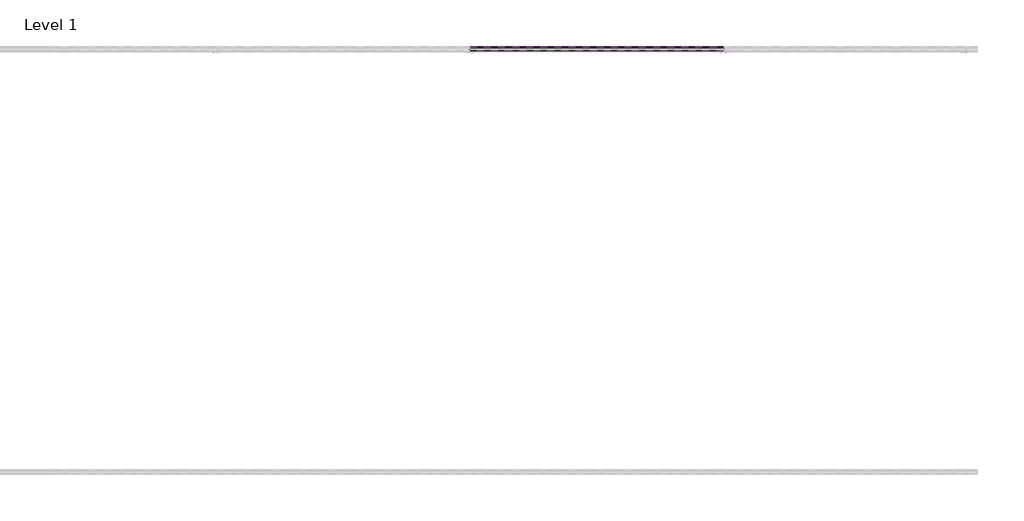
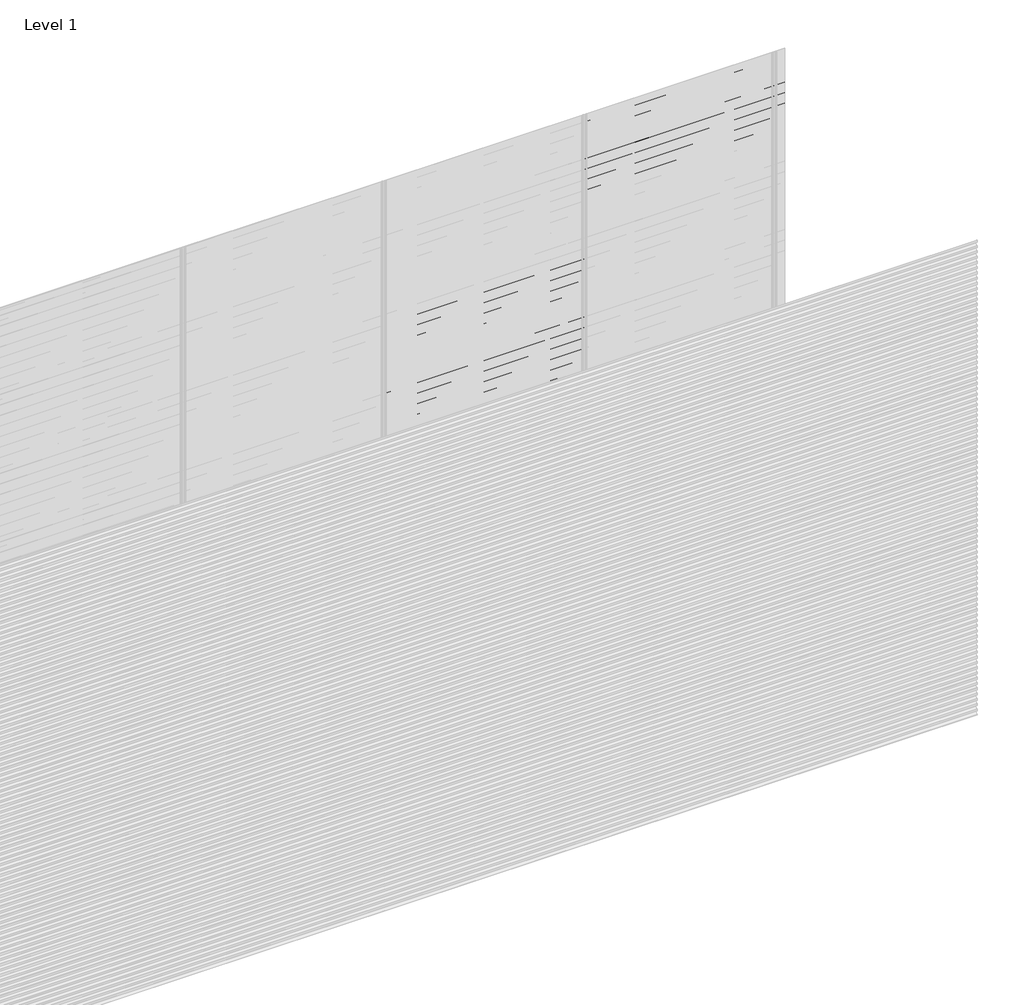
# One storey, part 76 of 77: 78 proxies.
"""IFC4 building model written with IfcOpenShell, lengths in millimetres."""

from ifc_helpers import new_model, si_unit, frame, origin, place, context, project, spatial, polyline, outline, extrude, element, save

model = new_model("IFC4")

# Units and contexts
model_context = context("Model", 3, world=origin())
ifc_project = project(units=[si_unit("LENGTHUNIT", "METRE", prefix="MILLI")], contexts=[model_context])

# Site, building, storey
site = spatial("IfcSite", under=ifc_project)
building = spatial("IfcBuilding", under=site)
storey = spatial("IfcBuildingStorey", under=building, Name="Level 1", Elevation=0.0)

# Proxies
placement = place(None, origin())
element("IfcBuildingElementProxy", 1, Name="Wall Sweeps", at=placement, inside=storey, context=model_context, shape_type="SweptSolid", body=[
    extrude(outline(polyline([(21.4, 2073.4359887), (2.0, 2084.6366691), (2.0, 2097.9), (3.0, 2097.9), (3.0, 2085.2191057), (22.4, 2074.0185105), (22.4, 2060.4185105), (21.4, 2061.9953129), (21.4, 2067.8032062), (4.0226183, 2059.7), (3.6, 2060.6063078), (21.4, 2068.9065841), (21.4, 2073.4359887)])), frame((3600.0, 0.0, 0.0), z_axis=(1.0, 0.0, 0.0), x_axis=(0.0, 1.0, 0.0)), (0.0, 0.0, 1.0), 1200.0),
])
element("IfcBuildingElementProxy", 2, Name="Wall Sweeps", at=placement, inside=storey, context=model_context, shape_type="SweptSolid", body=[
    extrude(outline(polyline([(21.4, 2040.1359887), (2.0, 2051.3366691), (2.0, 2064.6), (3.0, 2064.6), (3.0, 2051.9191057), (22.4, 2040.7185105), (22.4, 2027.1185105), (21.4, 2028.6953129), (21.4, 2034.5032062), (4.0226183, 2026.4), (3.6, 2027.3063078), (21.4, 2035.6065841), (21.4, 2040.1359887)])), frame((3600.0, 0.0, 0.0), z_axis=(1.0, 0.0, 0.0), x_axis=(0.0, 1.0, 0.0)), (0.0, 0.0, 1.0), 1200.0),
])
element("IfcBuildingElementProxy", 3, Name="Wall Sweeps", at=placement, inside=storey, context=model_context, shape_type="SweptSolid", body=[
    extrude(outline(polyline([(21.4, 2006.8359887), (2.0, 2018.0366691), (2.0, 2031.3), (3.0, 2031.3), (3.0, 2018.6191057), (22.4, 2007.4185105), (22.4, 1993.8185105), (21.4, 1995.3953129), (21.4, 2001.2032062), (4.0226183, 1993.1), (3.6, 1994.0063078), (21.4, 2002.3065841), (21.4, 2006.8359887)])), frame((3600.0, 0.0, 0.0), z_axis=(1.0, 0.0, 0.0), x_axis=(0.0, 1.0, 0.0)), (0.0, 0.0, 1.0), 1200.0),
])
element("IfcBuildingElementProxy", 4, Name="Wall Sweeps", at=placement, inside=storey, context=model_context, shape_type="SweptSolid", body=[
    extrude(outline(polyline([(21.4, 1973.5359887), (2.0, 1984.7366691), (2.0, 1998.0), (3.0, 1998.0), (3.0, 1985.3191057), (22.4, 1974.1185105), (22.4, 1960.5185105), (21.4, 1962.0953129), (21.4, 1967.9032062), (4.0226183, 1959.8), (3.6, 1960.7063078), (21.4, 1969.0065841), (21.4, 1973.5359887)])), frame((3600.0, 0.0, 0.0), z_axis=(1.0, 0.0, 0.0), x_axis=(0.0, 1.0, 0.0)), (0.0, 0.0, 1.0), 1200.0),
])
element("IfcBuildingElementProxy", 5, Name="Wall Sweeps", at=placement, inside=storey, context=model_context, shape_type="SweptSolid", body=[
    extrude(outline(polyline([(21.4, 1940.2359887), (2.0, 1951.4366691), (2.0, 1964.7), (3.0, 1964.7), (3.0, 1952.0191057), (22.4, 1940.8185105), (22.4, 1927.2185105), (21.4, 1928.7953129), (21.4, 1934.6032062), (4.0226183, 1926.5), (3.6, 1927.4063078), (21.4, 1935.7065841), (21.4, 1940.2359887)])), frame((3600.0, 0.0, 0.0), z_axis=(1.0, 0.0, 0.0), x_axis=(0.0, 1.0, 0.0)), (0.0, 0.0, 1.0), 1200.0),
])
element("IfcBuildingElementProxy", 6, Name="Wall Sweeps", at=placement, inside=storey, context=model_context, shape_type="SweptSolid", body=[
    extrude(outline(polyline([(21.4, 1906.9359887), (2.0, 1918.1366691), (2.0, 1931.4), (3.0, 1931.4), (3.0, 1918.7191057), (22.4, 1907.5185105), (22.4, 1893.9185105), (21.4, 1895.4953129), (21.4, 1901.3032062), (4.0226183, 1893.2), (3.6, 1894.1063078), (21.4, 1902.4065841), (21.4, 1906.9359887)])), frame((3600.0, 0.0, 0.0), z_axis=(1.0, 0.0, 0.0), x_axis=(0.0, 1.0, 0.0)), (0.0, 0.0, 1.0), 1200.0),
])
element("IfcBuildingElementProxy", 7, Name="Wall Sweeps", at=placement, inside=storey, context=model_context, shape_type="SweptSolid", body=[
    extrude(outline(polyline([(21.4, 1873.6359887), (2.0, 1884.8366691), (2.0, 1898.1), (3.0, 1898.1), (3.0, 1885.4191057), (22.4, 1874.2185105), (22.4, 1860.6185105), (21.4, 1862.1953129), (21.4, 1868.0032062), (4.0226183, 1859.9), (3.6, 1860.8063078), (21.4, 1869.1065841), (21.4, 1873.6359887)])), frame((3600.0, 0.0, 0.0), z_axis=(1.0, 0.0, 0.0), x_axis=(0.0, 1.0, 0.0)), (0.0, 0.0, 1.0), 1200.0),
])
element("IfcBuildingElementProxy", 8, Name="Wall Sweeps", at=placement, inside=storey, context=model_context, shape_type="SweptSolid", body=[
    extrude(outline(polyline([(21.4, 1840.3359887), (2.0, 1851.5366691), (2.0, 1864.8), (3.0, 1864.8), (3.0, 1852.1191057), (22.4, 1840.9185105), (22.4, 1827.3185105), (21.4, 1828.8953129), (21.4, 1834.7032062), (4.0226183, 1826.6), (3.6, 1827.5063078), (21.4, 1835.8065841), (21.4, 1840.3359887)])), frame((3600.0, 0.0, 0.0), z_axis=(1.0, 0.0, 0.0), x_axis=(0.0, 1.0, 0.0)), (0.0, 0.0, 1.0), 1200.0),
])
element("IfcBuildingElementProxy", 9, Name="Wall Sweeps", at=placement, inside=storey, context=model_context, shape_type="SweptSolid", body=[
    extrude(outline(polyline([(21.4, 1807.0359887), (2.0, 1818.2366691), (2.0, 1831.5), (3.0, 1831.5), (3.0, 1818.8191057), (22.4, 1807.6185105), (22.4, 1794.0185105), (21.4, 1795.5953129), (21.4, 1801.4032062), (4.0226183, 1793.3), (3.6, 1794.2063078), (21.4, 1802.5065841), (21.4, 1807.0359887)])), frame((3600.0, 0.0, 0.0), z_axis=(1.0, 0.0, 0.0), x_axis=(0.0, 1.0, 0.0)), (0.0, 0.0, 1.0), 1200.0),
])
element("IfcBuildingElementProxy", 10, Name="Wall Sweeps", at=placement, inside=storey, context=model_context, shape_type="SweptSolid", body=[
    extrude(outline(polyline([(21.4, 1773.7359887), (2.0, 1784.9366691), (2.0, 1798.2), (3.0, 1798.2), (3.0, 1785.5191057), (22.4, 1774.3185105), (22.4, 1760.7185105), (21.4, 1762.2953129), (21.4, 1768.1032062), (4.0226183, 1760.0), (3.6, 1760.9063078), (21.4, 1769.2065841), (21.4, 1773.7359887)])), frame((3600.0, 0.0, 0.0), z_axis=(1.0, 0.0, 0.0), x_axis=(0.0, 1.0, 0.0)), (0.0, 0.0, 1.0), 1200.0),
])
element("IfcBuildingElementProxy", 11, Name="Wall Sweeps", at=placement, inside=storey, context=model_context, shape_type="SweptSolid", body=[
    extrude(outline(polyline([(21.4, 1740.4359887), (2.0, 1751.6366691), (2.0, 1764.9), (3.0, 1764.9), (3.0, 1752.2191057), (22.4, 1741.0185105), (22.4, 1727.4185105), (21.4, 1728.9953129), (21.4, 1734.8032062), (4.0226183, 1726.7), (3.6, 1727.6063078), (21.4, 1735.9065841), (21.4, 1740.4359887)])), frame((3600.0, 0.0, 0.0), z_axis=(1.0, 0.0, 0.0), x_axis=(0.0, 1.0, 0.0)), (0.0, 0.0, 1.0), 1200.0),
])
element("IfcBuildingElementProxy", 12, Name="Wall Sweeps", at=placement, inside=storey, context=model_context, shape_type="SweptSolid", body=[
    extrude(outline(polyline([(21.4, 1707.1359887), (2.0, 1718.3366691), (2.0, 1731.6), (3.0, 1731.6), (3.0, 1718.9191057), (22.4, 1707.7185105), (22.4, 1694.1185105), (21.4, 1695.6953129), (21.4, 1701.5032062), (4.0226183, 1693.4), (3.6, 1694.3063078), (21.4, 1702.6065841), (21.4, 1707.1359887)])), frame((3600.0, 0.0, 0.0), z_axis=(1.0, 0.0, 0.0), x_axis=(0.0, 1.0, 0.0)), (0.0, 0.0, 1.0), 1200.0),
])
element("IfcBuildingElementProxy", 13, Name="Wall Sweeps", at=placement, inside=storey, context=model_context, shape_type="SweptSolid", body=[
    extrude(outline(polyline([(21.4, 1673.8359887), (2.0, 1685.0366691), (2.0, 1698.3), (3.0, 1698.3), (3.0, 1685.6191057), (22.4, 1674.4185105), (22.4, 1660.8185105), (21.4, 1662.3953129), (21.4, 1668.2032062), (4.0226183, 1660.1), (3.6, 1661.0063078), (21.4, 1669.3065841), (21.4, 1673.8359887)])), frame((3600.0, 0.0, 0.0), z_axis=(1.0, 0.0, 0.0), x_axis=(0.0, 1.0, 0.0)), (0.0, 0.0, 1.0), 1200.0),
])
element("IfcBuildingElementProxy", 14, Name="Wall Sweeps", at=placement, inside=storey, context=model_context, shape_type="SweptSolid", body=[
    extrude(outline(polyline([(21.4, 1640.5359887), (2.0, 1651.7366691), (2.0, 1665.0), (3.0, 1665.0), (3.0, 1652.3191057), (22.4, 1641.1185105), (22.4, 1627.5185105), (21.4, 1629.0953129), (21.4, 1634.9032062), (4.0226183, 1626.8), (3.6, 1627.7063078), (21.4, 1636.0065841), (21.4, 1640.5359887)])), frame((3600.0, 0.0, 0.0), z_axis=(1.0, 0.0, 0.0), x_axis=(0.0, 1.0, 0.0)), (0.0, 0.0, 1.0), 1200.0),
])
element("IfcBuildingElementProxy", 15, Name="Wall Sweeps", at=placement, inside=storey, context=model_context, shape_type="SweptSolid", body=[
    extrude(outline(polyline([(21.4, 1607.2359887), (2.0, 1618.4366691), (2.0, 1631.7), (3.0, 1631.7), (3.0, 1619.0191057), (22.4, 1607.8185105), (22.4, 1594.2185105), (21.4, 1595.7953129), (21.4, 1601.6032062), (4.0226183, 1593.5), (3.6, 1594.4063078), (21.4, 1602.7065841), (21.4, 1607.2359887)])), frame((3600.0, 0.0, 0.0), z_axis=(1.0, 0.0, 0.0), x_axis=(0.0, 1.0, 0.0)), (0.0, 0.0, 1.0), 1200.0),
])
element("IfcBuildingElementProxy", 16, Name="Wall Sweeps", at=placement, inside=storey, context=model_context, shape_type="SweptSolid", body=[
    extrude(outline(polyline([(21.4, 1573.9359887), (2.0, 1585.1366691), (2.0, 1598.4), (3.0, 1598.4), (3.0, 1585.7191057), (22.4, 1574.5185105), (22.4, 1560.9185105), (21.4, 1562.4953129), (21.4, 1568.3032062), (4.0226183, 1560.2), (3.6, 1561.1063078), (21.4, 1569.4065841), (21.4, 1573.9359887)])), frame((3600.0, 0.0, 0.0), z_axis=(1.0, 0.0, 0.0), x_axis=(0.0, 1.0, 0.0)), (0.0, 0.0, 1.0), 1200.0),
])
element("IfcBuildingElementProxy", 17, Name="Wall Sweeps", at=placement, inside=storey, context=model_context, shape_type="SweptSolid", body=[
    extrude(outline(polyline([(21.4, 1540.6359887), (2.0, 1551.8366691), (2.0, 1565.1), (3.0, 1565.1), (3.0, 1552.4191057), (22.4, 1541.2185105), (22.4, 1527.6185105), (21.4, 1529.1953129), (21.4, 1535.0032062), (4.0226183, 1526.9), (3.6, 1527.8063078), (21.4, 1536.1065841), (21.4, 1540.6359887)])), frame((3600.0, 0.0, 0.0), z_axis=(1.0, 0.0, 0.0), x_axis=(0.0, 1.0, 0.0)), (0.0, 0.0, 1.0), 1200.0),
])
element("IfcBuildingElementProxy", 18, Name="Wall Sweeps", at=placement, inside=storey, context=model_context, shape_type="SweptSolid", body=[
    extrude(outline(polyline([(21.4, 1507.3359887), (2.0, 1518.5366691), (2.0, 1531.8), (3.0, 1531.8), (3.0, 1519.1191057), (22.4, 1507.9185105), (22.4, 1494.3185105), (21.4, 1495.8953129), (21.4, 1501.7032062), (4.0226183, 1493.6), (3.6, 1494.5063078), (21.4, 1502.8065841), (21.4, 1507.3359887)])), frame((3600.0, 0.0, 0.0), z_axis=(1.0, 0.0, 0.0), x_axis=(0.0, 1.0, 0.0)), (0.0, 0.0, 1.0), 1200.0),
])
element("IfcBuildingElementProxy", 19, Name="Wall Sweeps", at=placement, inside=storey, context=model_context, shape_type="SweptSolid", body=[
    extrude(outline(polyline([(21.4, 1474.0359887), (2.0, 1485.2366691), (2.0, 1498.5), (3.0, 1498.5), (3.0, 1485.8191057), (22.4, 1474.6185105), (22.4, 1461.0185105), (21.4, 1462.5953129), (21.4, 1468.4032062), (4.0226183, 1460.3), (3.6, 1461.2063078), (21.4, 1469.5065841), (21.4, 1474.0359887)])), frame((3600.0, 0.0, 0.0), z_axis=(1.0, 0.0, 0.0), x_axis=(0.0, 1.0, 0.0)), (0.0, 0.0, 1.0), 1200.0),
])
element("IfcBuildingElementProxy", 20, Name="Wall Sweeps", at=placement, inside=storey, context=model_context, shape_type="SweptSolid", body=[
    extrude(outline(polyline([(21.4, 1440.7359887), (2.0, 1451.9366691), (2.0, 1465.2), (3.0, 1465.2), (3.0, 1452.5191057), (22.4, 1441.3185105), (22.4, 1427.7185105), (21.4, 1429.2953129), (21.4, 1435.1032062), (4.0226183, 1427.0), (3.6, 1427.9063078), (21.4, 1436.2065841), (21.4, 1440.7359887)])), frame((3600.0, 0.0, 0.0), z_axis=(1.0, 0.0, 0.0), x_axis=(0.0, 1.0, 0.0)), (0.0, 0.0, 1.0), 1200.0),
])
element("IfcBuildingElementProxy", 21, Name="Wall Sweeps", at=placement, inside=storey, context=model_context, shape_type="SweptSolid", body=[
    extrude(outline(polyline([(21.4, 1407.4359887), (2.0, 1418.6366691), (2.0, 1431.9), (3.0, 1431.9), (3.0, 1419.2191057), (22.4, 1408.0185105), (22.4, 1394.4185105), (21.4, 1395.9953129), (21.4, 1401.8032062), (4.0226183, 1393.7), (3.6, 1394.6063078), (21.4, 1402.9065841), (21.4, 1407.4359887)])), frame((3600.0, 0.0, 0.0), z_axis=(1.0, 0.0, 0.0), x_axis=(0.0, 1.0, 0.0)), (0.0, 0.0, 1.0), 1200.0),
])
element("IfcBuildingElementProxy", 22, Name="Wall Sweeps", at=placement, inside=storey, context=model_context, shape_type="SweptSolid", body=[
    extrude(outline(polyline([(21.4, 1374.1359887), (2.0, 1385.3366691), (2.0, 1398.6), (3.0, 1398.6), (3.0, 1385.9191057), (22.4, 1374.7185105), (22.4, 1361.1185105), (21.4, 1362.6953129), (21.4, 1368.5032062), (4.0226183, 1360.4), (3.6, 1361.3063078), (21.4, 1369.6065841), (21.4, 1374.1359887)])), frame((3600.0, 0.0, 0.0), z_axis=(1.0, 0.0, 0.0), x_axis=(0.0, 1.0, 0.0)), (0.0, 0.0, 1.0), 1200.0),
])
element("IfcBuildingElementProxy", 23, Name="Wall Sweeps", at=placement, inside=storey, context=model_context, shape_type="SweptSolid", body=[
    extrude(outline(polyline([(21.4, 1340.8359887), (2.0, 1352.0366691), (2.0, 1365.3), (3.0, 1365.3), (3.0, 1352.6191057), (22.4, 1341.4185105), (22.4, 1327.8185105), (21.4, 1329.3953129), (21.4, 1335.2032062), (4.0226183, 1327.1), (3.6, 1328.0063078), (21.4, 1336.3065841), (21.4, 1340.8359887)])), frame((3600.0, 0.0, 0.0), z_axis=(1.0, 0.0, 0.0), x_axis=(0.0, 1.0, 0.0)), (0.0, 0.0, 1.0), 1200.0),
])
element("IfcBuildingElementProxy", 24, Name="Wall Sweeps", at=placement, inside=storey, context=model_context, shape_type="SweptSolid", body=[
    extrude(outline(polyline([(21.4, 1307.5359887), (2.0, 1318.7366691), (2.0, 1332.0), (3.0, 1332.0), (3.0, 1319.3191057), (22.4, 1308.1185105), (22.4, 1294.5185105), (21.4, 1296.0953129), (21.4, 1301.9032062), (4.0226183, 1293.8), (3.6, 1294.7063078), (21.4, 1303.0065841), (21.4, 1307.5359887)])), frame((3600.0, 0.0, 0.0), z_axis=(1.0, 0.0, 0.0), x_axis=(0.0, 1.0, 0.0)), (0.0, 0.0, 1.0), 1200.0),
])
element("IfcBuildingElementProxy", 25, Name="Wall Sweeps", at=placement, inside=storey, context=model_context, shape_type="SweptSolid", body=[
    extrude(outline(polyline([(21.4, 1274.2359887), (2.0, 1285.4366691), (2.0, 1298.7), (3.0, 1298.7), (3.0, 1286.0191057), (22.4, 1274.8185105), (22.4, 1261.2185105), (21.4, 1262.7953129), (21.4, 1268.6032062), (4.0226183, 1260.5), (3.6, 1261.4063078), (21.4, 1269.7065841), (21.4, 1274.2359887)])), frame((3600.0, 0.0, 0.0), z_axis=(1.0, 0.0, 0.0), x_axis=(0.0, 1.0, 0.0)), (0.0, 0.0, 1.0), 1200.0),
])
element("IfcBuildingElementProxy", 26, Name="Wall Sweeps", at=placement, inside=storey, context=model_context, shape_type="SweptSolid", body=[
    extrude(outline(polyline([(21.4, 1240.9359887), (2.0, 1252.1366691), (2.0, 1265.4), (3.0, 1265.4), (3.0, 1252.7191057), (22.4, 1241.5185105), (22.4, 1227.9185105), (21.4, 1229.4953129), (21.4, 1235.3032062), (4.0226183, 1227.2), (3.6, 1228.1063078), (21.4, 1236.4065841), (21.4, 1240.9359887)])), frame((3600.0, 0.0, 0.0), z_axis=(1.0, 0.0, 0.0), x_axis=(0.0, 1.0, 0.0)), (0.0, 0.0, 1.0), 1200.0),
])
element("IfcBuildingElementProxy", 27, Name="Wall Sweeps", at=placement, inside=storey, context=model_context, shape_type="SweptSolid", body=[
    extrude(outline(polyline([(21.4, 1207.6359887), (2.0, 1218.8366691), (2.0, 1232.1), (3.0, 1232.1), (3.0, 1219.4191057), (22.4, 1208.2185105), (22.4, 1194.6185105), (21.4, 1196.1953129), (21.4, 1202.0032062), (4.0226183, 1193.9), (3.6, 1194.8063078), (21.4, 1203.1065841), (21.4, 1207.6359887)])), frame((3600.0, 0.0, 0.0), z_axis=(1.0, 0.0, 0.0), x_axis=(0.0, 1.0, 0.0)), (0.0, 0.0, 1.0), 1200.0),
])
element("IfcBuildingElementProxy", 28, Name="Wall Sweeps", at=placement, inside=storey, context=model_context, shape_type="SweptSolid", body=[
    extrude(outline(polyline([(21.4, 1174.3359887), (2.0, 1185.5366691), (2.0, 1198.8), (3.0, 1198.8), (3.0, 1186.1191057), (22.4, 1174.9185105), (22.4, 1161.3185105), (21.4, 1162.8953129), (21.4, 1168.7032062), (4.0226183, 1160.6), (3.6, 1161.5063078), (21.4, 1169.8065841), (21.4, 1174.3359887)])), frame((3600.0, 0.0, 0.0), z_axis=(1.0, 0.0, 0.0), x_axis=(0.0, 1.0, 0.0)), (0.0, 0.0, 1.0), 1200.0),
])
element("IfcBuildingElementProxy", 29, Name="Wall Sweeps", at=placement, inside=storey, context=model_context, shape_type="SweptSolid", body=[
    extrude(outline(polyline([(21.4, 1141.0359887), (2.0, 1152.2366691), (2.0, 1165.5), (3.0, 1165.5), (3.0, 1152.8191057), (22.4, 1141.6185105), (22.4, 1128.0185105), (21.4, 1129.5953129), (21.4, 1135.4032062), (4.0226183, 1127.3), (3.6, 1128.2063078), (21.4, 1136.5065841), (21.4, 1141.0359887)])), frame((3600.0, 0.0, 0.0), z_axis=(1.0, 0.0, 0.0), x_axis=(0.0, 1.0, 0.0)), (0.0, 0.0, 1.0), 1200.0),
])
element("IfcBuildingElementProxy", 30, Name="Wall Sweeps", at=placement, inside=storey, context=model_context, shape_type="SweptSolid", body=[
    extrude(outline(polyline([(21.4, 1107.7359887), (2.0, 1118.9366691), (2.0, 1132.2), (3.0, 1132.2), (3.0, 1119.5191057), (22.4, 1108.3185105), (22.4, 1094.7185105), (21.4, 1096.2953129), (21.4, 1102.1032062), (4.0226183, 1094.0), (3.6, 1094.9063078), (21.4, 1103.2065841), (21.4, 1107.7359887)])), frame((3600.0, 0.0, 0.0), z_axis=(1.0, 0.0, 0.0), x_axis=(0.0, 1.0, 0.0)), (0.0, 0.0, 1.0), 1200.0),
])
element("IfcBuildingElementProxy", 31, Name="Wall Sweeps", at=placement, inside=storey, context=model_context, shape_type="SweptSolid", body=[
    extrude(outline(polyline([(21.4, 1074.4359887), (2.0, 1085.6366691), (2.0, 1098.9), (3.0, 1098.9), (3.0, 1086.2191057), (22.4, 1075.0185105), (22.4, 1061.4185105), (21.4, 1062.9953129), (21.4, 1068.8032062), (4.0226183, 1060.7), (3.6, 1061.6063078), (21.4, 1069.9065841), (21.4, 1074.4359887)])), frame((3600.0, 0.0, 0.0), z_axis=(1.0, 0.0, 0.0), x_axis=(0.0, 1.0, 0.0)), (0.0, 0.0, 1.0), 1200.0),
])
element("IfcBuildingElementProxy", 32, Name="Wall Sweeps", at=placement, inside=storey, context=model_context, shape_type="SweptSolid", body=[
    extrude(outline(polyline([(21.4, 1041.1359887), (2.0, 1052.3366691), (2.0, 1065.6), (3.0, 1065.6), (3.0, 1052.9191057), (22.4, 1041.7185105), (22.4, 1028.1185105), (21.4, 1029.6953129), (21.4, 1035.5032062), (4.0226183, 1027.4), (3.6, 1028.3063078), (21.4, 1036.6065841), (21.4, 1041.1359887)])), frame((3600.0, 0.0, 0.0), z_axis=(1.0, 0.0, 0.0), x_axis=(0.0, 1.0, 0.0)), (0.0, 0.0, 1.0), 1200.0),
])
element("IfcBuildingElementProxy", 33, Name="Wall Sweeps", at=placement, inside=storey, context=model_context, shape_type="SweptSolid", body=[
    extrude(outline(polyline([(21.4, 1007.8359887), (2.0, 1019.0366691), (2.0, 1032.3), (3.0, 1032.3), (3.0, 1019.6191057), (22.4, 1008.4185105), (22.4, 994.8185105), (21.4, 996.3953129), (21.4, 1002.2032062), (4.0226183, 994.1), (3.6, 995.0063078), (21.4, 1003.3065841), (21.4, 1007.8359887)])), frame((3600.0, 0.0, 0.0), z_axis=(1.0, 0.0, 0.0), x_axis=(0.0, 1.0, 0.0)), (0.0, 0.0, 1.0), 1200.0),
])
element("IfcBuildingElementProxy", 34, Name="Wall Sweeps", at=placement, inside=storey, context=model_context, shape_type="SweptSolid", body=[
    extrude(outline(polyline([(21.4, 974.5359887), (2.0, 985.7366691), (2.0, 999.0), (3.0, 999.0), (3.0, 986.3191057), (22.4, 975.1185105), (22.4, 961.5185105), (21.4, 963.0953129), (21.4, 968.9032062), (4.0226183, 960.8), (3.6, 961.7063078), (21.4, 970.0065841), (21.4, 974.5359887)])), frame((3600.0, 0.0, 0.0), z_axis=(1.0, 0.0, 0.0), x_axis=(0.0, 1.0, 0.0)), (0.0, 0.0, 1.0), 1200.0),
])
element("IfcBuildingElementProxy", 35, Name="Wall Sweeps", at=placement, inside=storey, context=model_context, shape_type="SweptSolid", body=[
    extrude(outline(polyline([(21.4, 941.2359887), (2.0, 952.4366691), (2.0, 965.7), (3.0, 965.7), (3.0, 953.0191057), (22.4, 941.8185105), (22.4, 928.2185105), (21.4, 929.7953129), (21.4, 935.6032062), (4.0226183, 927.5), (3.6, 928.4063078), (21.4, 936.7065841), (21.4, 941.2359887)])), frame((3600.0, 0.0, 0.0), z_axis=(1.0, 0.0, 0.0), x_axis=(0.0, 1.0, 0.0)), (0.0, 0.0, 1.0), 1200.0),
])
element("IfcBuildingElementProxy", 36, Name="Wall Sweeps", at=placement, inside=storey, context=model_context, shape_type="SweptSolid", body=[
    extrude(outline(polyline([(21.4, 907.9359887), (2.0, 919.1366691), (2.0, 932.4), (3.0, 932.4), (3.0, 919.7191057), (22.4, 908.5185105), (22.4, 894.9185105), (21.4, 896.4953129), (21.4, 902.3032062), (4.0226183, 894.2), (3.6, 895.1063078), (21.4, 903.4065841), (21.4, 907.9359887)])), frame((3600.0, 0.0, 0.0), z_axis=(1.0, 0.0, 0.0), x_axis=(0.0, 1.0, 0.0)), (0.0, 0.0, 1.0), 1200.0),
])
element("IfcBuildingElementProxy", 37, Name="Wall Sweeps", at=placement, inside=storey, context=model_context, shape_type="SweptSolid", body=[
    extrude(outline(polyline([(21.4, 874.6359887), (2.0, 885.8366691), (2.0, 899.1), (3.0, 899.1), (3.0, 886.4191057), (22.4, 875.2185105), (22.4, 861.6185105), (21.4, 863.1953129), (21.4, 869.0032062), (4.0226183, 860.9), (3.6, 861.8063078), (21.4, 870.1065841), (21.4, 874.6359887)])), frame((3600.0, 0.0, 0.0), z_axis=(1.0, 0.0, 0.0), x_axis=(0.0, 1.0, 0.0)), (0.0, 0.0, 1.0), 1200.0),
])
element("IfcBuildingElementProxy", 38, Name="Wall Sweeps", at=placement, inside=storey, context=model_context, shape_type="SweptSolid", body=[
    extrude(outline(polyline([(21.4, 841.3359887), (2.0, 852.5366691), (2.0, 865.8), (3.0, 865.8), (3.0, 853.1191057), (22.4, 841.9185105), (22.4, 828.3185105), (21.4, 829.8953129), (21.4, 835.7032062), (4.0226183, 827.6), (3.6, 828.5063078), (21.4, 836.8065841), (21.4, 841.3359887)])), frame((3600.0, 0.0, 0.0), z_axis=(1.0, 0.0, 0.0), x_axis=(0.0, 1.0, 0.0)), (0.0, 0.0, 1.0), 1200.0),
])
element("IfcBuildingElementProxy", 39, Name="Wall Sweeps", at=placement, inside=storey, context=model_context, shape_type="SweptSolid", body=[
    extrude(outline(polyline([(21.4, 808.0359887), (2.0, 819.2366691), (2.0, 832.5), (3.0, 832.5), (3.0, 819.8191057), (22.4, 808.6185105), (22.4, 795.0185105), (21.4, 796.5953129), (21.4, 802.4032062), (4.0226183, 794.3), (3.6, 795.2063078), (21.4, 803.5065841), (21.4, 808.0359887)])), frame((3600.0, 0.0, 0.0), z_axis=(1.0, 0.0, 0.0), x_axis=(0.0, 1.0, 0.0)), (0.0, 0.0, 1.0), 1200.0),
])
element("IfcBuildingElementProxy", 40, Name="Wall Sweeps", at=placement, inside=storey, context=model_context, shape_type="SweptSolid", body=[
    extrude(outline(polyline([(21.4, 774.7359887), (2.0, 785.9366691), (2.0, 799.2), (3.0, 799.2), (3.0, 786.5191057), (22.4, 775.3185105), (22.4, 761.7185105), (21.4, 763.2953129), (21.4, 769.1032062), (4.0226183, 761.0), (3.6, 761.9063078), (21.4, 770.2065841), (21.4, 774.7359887)])), frame((3600.0, 0.0, 0.0), z_axis=(1.0, 0.0, 0.0), x_axis=(0.0, 1.0, 0.0)), (0.0, 0.0, 1.0), 1200.0),
])
element("IfcBuildingElementProxy", 41, Name="Wall Sweeps", at=placement, inside=storey, context=model_context, shape_type="SweptSolid", body=[
    extrude(outline(polyline([(21.4, 741.4359887), (2.0, 752.6366691), (2.0, 765.9), (3.0, 765.9), (3.0, 753.2191057), (22.4, 742.0185105), (22.4, 728.4185105), (21.4, 729.9953129), (21.4, 735.8032062), (4.0226183, 727.7), (3.6, 728.6063078), (21.4, 736.9065841), (21.4, 741.4359887)])), frame((3600.0, 0.0, 0.0), z_axis=(1.0, 0.0, 0.0), x_axis=(0.0, 1.0, 0.0)), (0.0, 0.0, 1.0), 1200.0),
])
element("IfcBuildingElementProxy", 42, Name="Wall Sweeps", at=placement, inside=storey, context=model_context, shape_type="SweptSolid", body=[
    extrude(outline(polyline([(21.4, 708.1359887), (2.0, 719.3366691), (2.0, 732.6), (3.0, 732.6), (3.0, 719.9191057), (22.4, 708.7185105), (22.4, 695.1185105), (21.4, 696.6953129), (21.4, 702.5032062), (4.0226183, 694.4), (3.6, 695.3063078), (21.4, 703.6065841), (21.4, 708.1359887)])), frame((3600.0, 0.0, 0.0), z_axis=(1.0, 0.0, 0.0), x_axis=(0.0, 1.0, 0.0)), (0.0, 0.0, 1.0), 1200.0),
])
element("IfcBuildingElementProxy", 43, Name="Wall Sweeps", at=placement, inside=storey, context=model_context, shape_type="SweptSolid", body=[
    extrude(outline(polyline([(21.4, 674.8359887), (2.0, 686.0366691), (2.0, 699.3), (3.0, 699.3), (3.0, 686.6191057), (22.4, 675.4185105), (22.4, 661.8185105), (21.4, 663.3953129), (21.4, 669.2032062), (4.0226183, 661.1), (3.6, 662.0063078), (21.4, 670.3065841), (21.4, 674.8359887)])), frame((3600.0, 0.0, 0.0), z_axis=(1.0, 0.0, 0.0), x_axis=(0.0, 1.0, 0.0)), (0.0, 0.0, 1.0), 1200.0),
])
element("IfcBuildingElementProxy", 44, Name="Wall Sweeps", at=placement, inside=storey, context=model_context, shape_type="SweptSolid", body=[
    extrude(outline(polyline([(21.4, 641.5359887), (2.0, 652.7366691), (2.0, 666.0), (3.0, 666.0), (3.0, 653.3191057), (22.4, 642.1185105), (22.4, 628.5185105), (21.4, 630.0953129), (21.4, 635.9032062), (4.0226183, 627.8), (3.6, 628.7063078), (21.4, 637.0065841), (21.4, 641.5359887)])), frame((3600.0, 0.0, 0.0), z_axis=(1.0, 0.0, 0.0), x_axis=(0.0, 1.0, 0.0)), (0.0, 0.0, 1.0), 1200.0),
])
element("IfcBuildingElementProxy", 45, Name="Wall Sweeps", at=placement, inside=storey, context=model_context, shape_type="SweptSolid", body=[
    extrude(outline(polyline([(21.4, 608.2359887), (2.0, 619.4366691), (2.0, 632.7), (3.0, 632.7), (3.0, 620.0191057), (22.4, 608.8185105), (22.4, 595.2185105), (21.4, 596.7953129), (21.4, 602.6032062), (4.0226183, 594.5), (3.6, 595.4063078), (21.4, 603.7065841), (21.4, 608.2359887)])), frame((3600.0, 0.0, 0.0), z_axis=(1.0, 0.0, 0.0), x_axis=(0.0, 1.0, 0.0)), (0.0, 0.0, 1.0), 1200.0),
])
element("IfcBuildingElementProxy", 46, Name="Wall Sweeps", at=placement, inside=storey, context=model_context, shape_type="SweptSolid", body=[
    extrude(outline(polyline([(21.4, 574.9359887), (2.0, 586.1366691), (2.0, 599.4), (3.0, 599.4), (3.0, 586.7191057), (22.4, 575.5185105), (22.4, 561.9185105), (21.4, 563.4953129), (21.4, 569.3032062), (4.0226183, 561.2), (3.6, 562.1063078), (21.4, 570.4065841), (21.4, 574.9359887)])), frame((3600.0, 0.0, 0.0), z_axis=(1.0, 0.0, 0.0), x_axis=(0.0, 1.0, 0.0)), (0.0, 0.0, 1.0), 1200.0),
])
element("IfcBuildingElementProxy", 47, Name="Wall Sweeps", at=placement, inside=storey, context=model_context, shape_type="SweptSolid", body=[
    extrude(outline(polyline([(21.4, 541.6359887), (2.0, 552.8366691), (2.0, 566.1), (3.0, 566.1), (3.0, 553.4191057), (22.4, 542.2185105), (22.4, 528.6185105), (21.4, 530.1953129), (21.4, 536.0032062), (4.0226183, 527.9), (3.6, 528.8063078), (21.4, 537.1065841), (21.4, 541.6359887)])), frame((3600.0, 0.0, 0.0), z_axis=(1.0, 0.0, 0.0), x_axis=(0.0, 1.0, 0.0)), (0.0, 0.0, 1.0), 1200.0),
])
element("IfcBuildingElementProxy", 48, Name="Wall Sweeps", at=placement, inside=storey, context=model_context, shape_type="SweptSolid", body=[
    extrude(outline(polyline([(21.4, 508.3359887), (2.0, 519.5366691), (2.0, 532.8), (3.0, 532.8), (3.0, 520.1191057), (22.4, 508.9185105), (22.4, 495.3185105), (21.4, 496.8953129), (21.4, 502.7032062), (4.0226183, 494.6), (3.6, 495.5063078), (21.4, 503.8065841), (21.4, 508.3359887)])), frame((3600.0, 0.0, 0.0), z_axis=(1.0, 0.0, 0.0), x_axis=(0.0, 1.0, 0.0)), (0.0, 0.0, 1.0), 1200.0),
])
element("IfcBuildingElementProxy", 49, Name="Wall Sweeps", at=placement, inside=storey, context=model_context, shape_type="SweptSolid", body=[
    extrude(outline(polyline([(21.4, 475.0359887), (2.0, 486.2366691), (2.0, 499.5), (3.0, 499.5), (3.0, 486.8191057), (22.4, 475.6185105), (22.4, 462.0185105), (21.4, 463.5953129), (21.4, 469.4032062), (4.0226183, 461.3), (3.6, 462.2063078), (21.4, 470.5065841), (21.4, 475.0359887)])), frame((3600.0, 0.0, 0.0), z_axis=(1.0, 0.0, 0.0), x_axis=(0.0, 1.0, 0.0)), (0.0, 0.0, 1.0), 1200.0),
])
element("IfcBuildingElementProxy", 50, Name="Wall Sweeps", at=placement, inside=storey, context=model_context, shape_type="SweptSolid", body=[
    extrude(outline(polyline([(21.4, 441.7359887), (2.0, 452.9366691), (2.0, 466.2), (3.0, 466.2), (3.0, 453.5191057), (22.4, 442.3185105), (22.4, 428.7185105), (21.4, 430.2953129), (21.4, 436.1032062), (4.0226183, 428.0), (3.6, 428.9063078), (21.4, 437.2065841), (21.4, 441.7359887)])), frame((3600.0, 0.0, 0.0), z_axis=(1.0, 0.0, 0.0), x_axis=(0.0, 1.0, 0.0)), (0.0, 0.0, 1.0), 1200.0),
])
element("IfcBuildingElementProxy", 51, Name="Wall Sweeps", at=placement, inside=storey, context=model_context, shape_type="SweptSolid", body=[
    extrude(outline(polyline([(21.4, 408.4359887), (2.0, 419.6366691), (2.0, 432.9), (3.0, 432.9), (3.0, 420.2191057), (22.4, 409.0185105), (22.4, 395.4185105), (21.4, 396.9953129), (21.4, 402.8032062), (4.0226183, 394.7), (3.6, 395.6063078), (21.4, 403.9065841), (21.4, 408.4359887)])), frame((3600.0, 0.0, 0.0), z_axis=(1.0, 0.0, 0.0), x_axis=(0.0, 1.0, 0.0)), (0.0, 0.0, 1.0), 1200.0),
])
element("IfcBuildingElementProxy", 52, Name="Wall Sweeps", at=placement, inside=storey, context=model_context, shape_type="SweptSolid", body=[
    extrude(outline(polyline([(21.4, 375.1359887), (2.0, 386.3366691), (2.0, 399.6), (3.0, 399.6), (3.0, 386.9191057), (22.4, 375.7185105), (22.4, 362.1185105), (21.4, 363.6953129), (21.4, 369.5032062), (4.0226183, 361.4), (3.6, 362.3063078), (21.4, 370.6065841), (21.4, 375.1359887)])), frame((3600.0, 0.0, 0.0), z_axis=(1.0, 0.0, 0.0), x_axis=(0.0, 1.0, 0.0)), (0.0, 0.0, 1.0), 1200.0),
])
element("IfcBuildingElementProxy", 53, Name="Wall Sweeps", at=placement, inside=storey, context=model_context, shape_type="SweptSolid", body=[
    extrude(outline(polyline([(21.4, 341.8359887), (2.0, 353.0366691), (2.0, 366.3), (3.0, 366.3), (3.0, 353.6191057), (22.4, 342.4185105), (22.4, 328.8185105), (21.4, 330.3953129), (21.4, 336.2032062), (4.0226183, 328.1), (3.6, 329.0063078), (21.4, 337.3065841), (21.4, 341.8359887)])), frame((3600.0, 0.0, 0.0), z_axis=(1.0, 0.0, 0.0), x_axis=(0.0, 1.0, 0.0)), (0.0, 0.0, 1.0), 1200.0),
])
element("IfcBuildingElementProxy", 54, Name="Wall Sweeps", at=placement, inside=storey, context=model_context, shape_type="SweptSolid", body=[
    extrude(outline(polyline([(21.4, 308.5359887), (2.0, 319.7366691), (2.0, 333.0), (3.0, 333.0), (3.0, 320.3191057), (22.4, 309.1185105), (22.4, 295.5185105), (21.4, 297.0953129), (21.4, 302.9032062), (4.0226183, 294.8), (3.6, 295.7063078), (21.4, 304.0065841), (21.4, 308.5359887)])), frame((3600.0, 0.0, 0.0), z_axis=(1.0, 0.0, 0.0), x_axis=(0.0, 1.0, 0.0)), (0.0, 0.0, 1.0), 1200.0),
])
element("IfcBuildingElementProxy", 55, Name="Wall Sweeps", at=placement, inside=storey, context=model_context, shape_type="SweptSolid", body=[
    extrude(outline(polyline([(21.4, 275.2359887), (2.0, 286.4366691), (2.0, 299.7), (3.0, 299.7), (3.0, 287.0191057), (22.4, 275.8185105), (22.4, 262.2185105), (21.4, 263.7953129), (21.4, 269.6032062), (4.0226183, 261.5), (3.6, 262.4063078), (21.4, 270.7065841), (21.4, 275.2359887)])), frame((3600.0, 0.0, 0.0), z_axis=(1.0, 0.0, 0.0), x_axis=(0.0, 1.0, 0.0)), (0.0, 0.0, 1.0), 1200.0),
])
element("IfcBuildingElementProxy", 56, Name="Wall Sweeps", at=placement, inside=storey, context=model_context, shape_type="SweptSolid", body=[
    extrude(outline(polyline([(21.4, 241.9359887), (2.0, 253.1366691), (2.0, 266.4), (3.0, 266.4), (3.0, 253.7191057), (22.4, 242.5185105), (22.4, 228.9185105), (21.4, 230.4953129), (21.4, 236.3032062), (4.0226183, 228.2), (3.6, 229.1063078), (21.4, 237.4065841), (21.4, 241.9359887)])), frame((3600.0, 0.0, 0.0), z_axis=(1.0, 0.0, 0.0), x_axis=(0.0, 1.0, 0.0)), (0.0, 0.0, 1.0), 1200.0),
])
element("IfcBuildingElementProxy", 57, Name="Wall Sweeps", at=placement, inside=storey, context=model_context, shape_type="SweptSolid", body=[
    extrude(outline(polyline([(21.4, 208.6359887), (2.0, 219.8366691), (2.0, 233.1), (3.0, 233.1), (3.0, 220.4191057), (22.4, 209.2185105), (22.4, 195.6185105), (21.4, 197.1953129), (21.4, 203.0032062), (4.0226183, 194.9), (3.6, 195.8063078), (21.4, 204.1065841), (21.4, 208.6359887)])), frame((3600.0, 0.0, 0.0), z_axis=(1.0, 0.0, 0.0), x_axis=(0.0, 1.0, 0.0)), (0.0, 0.0, 1.0), 1200.0),
])
element("IfcBuildingElementProxy", 58, Name="Wall Sweeps", at=placement, inside=storey, context=model_context, shape_type="SweptSolid", body=[
    extrude(outline(polyline([(21.4, 175.3359887), (2.0, 186.5366691), (2.0, 199.8), (3.0, 199.8), (3.0, 187.1191057), (22.4, 175.9185105), (22.4, 162.3185105), (21.4, 163.8953129), (21.4, 169.7032062), (4.0226183, 161.6), (3.6, 162.5063078), (21.4, 170.8065841), (21.4, 175.3359887)])), frame((3600.0, 0.0, 0.0), z_axis=(1.0, 0.0, 0.0), x_axis=(0.0, 1.0, 0.0)), (0.0, 0.0, 1.0), 1200.0),
])
element("IfcBuildingElementProxy", 59, Name="Wall Sweeps", at=placement, inside=storey, context=model_context, shape_type="SweptSolid", body=[
    extrude(outline(polyline([(21.4, 142.0359887), (2.0, 153.2366691), (2.0, 166.5), (3.0, 166.5), (3.0, 153.8191057), (22.4, 142.6185105), (22.4, 129.0185105), (21.4, 130.5953129), (21.4, 136.4032062), (4.0226183, 128.3), (3.6, 129.2063078), (21.4, 137.5065841), (21.4, 142.0359887)])), frame((3600.0, 0.0, 0.0), z_axis=(1.0, 0.0, 0.0), x_axis=(0.0, 1.0, 0.0)), (0.0, 0.0, 1.0), 1200.0),
])
element("IfcBuildingElementProxy", 60, Name="Wall Sweeps", at=placement, inside=storey, context=model_context, shape_type="SweptSolid", body=[
    extrude(outline(polyline([(21.4, 108.7359887), (2.0, 119.9366691), (2.0, 133.2), (3.0, 133.2), (3.0, 120.5191057), (22.4, 109.3185105), (22.4, 95.7185105), (21.4, 97.2953129), (21.4, 103.1032062), (4.0226183, 95.0), (3.6, 95.9063078), (21.4, 104.2065841), (21.4, 108.7359887)])), frame((3600.0, 0.0, 0.0), z_axis=(1.0, 0.0, 0.0), x_axis=(0.0, 1.0, 0.0)), (0.0, 0.0, 1.0), 1200.0),
])
element("IfcBuildingElementProxy", 61, Name="Wall Sweeps", at=placement, inside=storey, context=model_context, shape_type="SweptSolid", body=[
    extrude(outline(polyline([(21.4, 75.4359887), (2.0, 86.6366691), (2.0, 99.9), (3.0, 99.9), (3.0, 87.2191057), (22.4, 76.0185105), (22.4, 62.4185105), (21.4, 63.9953129), (21.4, 69.8032062), (4.0226183, 61.7), (3.6, 62.6063078), (21.4, 70.9065841), (21.4, 75.4359887)])), frame((3600.0, 0.0, 0.0), z_axis=(1.0, 0.0, 0.0), x_axis=(0.0, 1.0, 0.0)), (0.0, 0.0, 1.0), 1200.0),
])
element("IfcBuildingElementProxy", 62, Name="Wall Sweeps", at=placement, inside=storey, context=model_context, shape_type="SweptSolid", body=[
    extrude(outline(polyline([(21.4, 42.1359887), (2.0, 53.3366691), (2.0, 66.6), (3.0, 66.6), (3.0, 53.9191057), (22.4, 42.7185105), (22.4, 29.1185105), (21.4, 30.6953129), (21.4, 36.5032062), (4.0226183, 28.4), (3.6, 29.3063078), (21.4, 37.6065841), (21.4, 42.1359887)])), frame((3600.0, 0.0, 0.0), z_axis=(1.0, 0.0, 0.0), x_axis=(0.0, 1.0, 0.0)), (0.0, 0.0, 1.0), 1200.0),
])
element("IfcBuildingElementProxy", 63, Name="Wall Sweeps", at=placement, inside=storey, context=model_context, shape_type="SweptSolid", body=[
    extrude(outline(polyline([(21.4, 8.8359887), (2.0, 20.0366691), (2.0, 33.3), (3.0, 33.3), (3.0, 20.6191057), (22.4, 9.4185105), (22.4, -4.1814895), (21.4, -2.6046871), (21.4, 3.2032062), (4.0226183, -4.9), (3.6, -3.9936922), (21.4, 4.3065841), (21.4, 8.8359887)])), frame((3600.0, 0.0, 0.0), z_axis=(1.0, 0.0, 0.0), x_axis=(0.0, 1.0, 0.0)), (0.0, 0.0, 1.0), 1200.0),
])
element("IfcBuildingElementProxy", 64, Name="Wall Sweeps", at=placement, inside=storey, context=model_context, shape_type="SweptSolid", body=[
    extrude(outline(polyline([(21.4, 2972.5359887), (2.0, 2983.7366691), (2.0, 2997.0), (3.0, 2997.0), (3.0, 2984.3191057), (22.4, 2973.1185105), (22.4, 2959.5185105), (21.4, 2961.0953129), (21.4, 2966.9032062), (4.0226183, 2958.8), (3.6, 2959.7063078), (21.4, 2968.0065841), (21.4, 2972.5359887)])), frame((4800.0, 0.0, 0.0), z_axis=(1.0, 0.0, 0.0), x_axis=(0.0, 1.0, 0.0)), (0.0, 0.0, 1.0), 1200.0),
])
element("IfcBuildingElementProxy", 65, Name="Wall Sweeps", at=placement, inside=storey, context=model_context, shape_type="SweptSolid", body=[
    extrude(outline(polyline([(21.4, 2939.2359887), (2.0, 2950.4366691), (2.0, 2963.7), (3.0, 2963.7), (3.0, 2951.0191057), (22.4, 2939.8185105), (22.4, 2926.2185105), (21.4, 2927.7953129), (21.4, 2933.6032062), (4.0226183, 2925.5), (3.6, 2926.4063078), (21.4, 2934.7065841), (21.4, 2939.2359887)])), frame((4800.0, 0.0, 0.0), z_axis=(1.0, 0.0, 0.0), x_axis=(0.0, 1.0, 0.0)), (0.0, 0.0, 1.0), 1200.0),
])
element("IfcBuildingElementProxy", 66, Name="Wall Sweeps", at=placement, inside=storey, context=model_context, shape_type="SweptSolid", body=[
    extrude(outline(polyline([(21.4, 2905.9359887), (2.0, 2917.1366691), (2.0, 2930.4), (3.0, 2930.4), (3.0, 2917.7191057), (22.4, 2906.5185105), (22.4, 2892.9185105), (21.4, 2894.4953129), (21.4, 2900.3032062), (4.0226183, 2892.2), (3.6, 2893.1063078), (21.4, 2901.4065841), (21.4, 2905.9359887)])), frame((4800.0, 0.0, 0.0), z_axis=(1.0, 0.0, 0.0), x_axis=(0.0, 1.0, 0.0)), (0.0, 0.0, 1.0), 1200.0),
])
element("IfcBuildingElementProxy", 67, Name="Wall Sweeps", at=placement, inside=storey, context=model_context, shape_type="SweptSolid", body=[
    extrude(outline(polyline([(21.4, 2872.6359887), (2.0, 2883.8366691), (2.0, 2897.1), (3.0, 2897.1), (3.0, 2884.4191057), (22.4, 2873.2185105), (22.4, 2859.6185105), (21.4, 2861.1953129), (21.4, 2867.0032062), (4.0226183, 2858.9), (3.6, 2859.8063078), (21.4, 2868.1065841), (21.4, 2872.6359887)])), frame((4800.0, 0.0, 0.0), z_axis=(1.0, 0.0, 0.0), x_axis=(0.0, 1.0, 0.0)), (0.0, 0.0, 1.0), 1200.0),
])
element("IfcBuildingElementProxy", 68, Name="Wall Sweeps", at=placement, inside=storey, context=model_context, shape_type="SweptSolid", body=[
    extrude(outline(polyline([(21.4, 2839.3359887), (2.0, 2850.5366691), (2.0, 2863.8), (3.0, 2863.8), (3.0, 2851.1191057), (22.4, 2839.9185105), (22.4, 2826.3185105), (21.4, 2827.8953129), (21.4, 2833.7032062), (4.0226183, 2825.6), (3.6, 2826.5063078), (21.4, 2834.8065841), (21.4, 2839.3359887)])), frame((4800.0, 0.0, 0.0), z_axis=(1.0, 0.0, 0.0), x_axis=(0.0, 1.0, 0.0)), (0.0, 0.0, 1.0), 1200.0),
])
element("IfcBuildingElementProxy", 69, Name="Wall Sweeps", at=placement, inside=storey, context=model_context, shape_type="SweptSolid", body=[
    extrude(outline(polyline([(21.4, 2806.0359887), (2.0, 2817.2366691), (2.0, 2830.5), (3.0, 2830.5), (3.0, 2817.8191057), (22.4, 2806.6185105), (22.4, 2793.0185105), (21.4, 2794.5953129), (21.4, 2800.4032062), (4.0226183, 2792.3), (3.6, 2793.2063078), (21.4, 2801.5065841), (21.4, 2806.0359887)])), frame((4800.0, 0.0, 0.0), z_axis=(1.0, 0.0, 0.0), x_axis=(0.0, 1.0, 0.0)), (0.0, 0.0, 1.0), 1200.0),
])
element("IfcBuildingElementProxy", 70, Name="Wall Sweeps", at=placement, inside=storey, context=model_context, shape_type="SweptSolid", body=[
    extrude(outline(polyline([(21.4, 2772.7359887), (2.0, 2783.9366691), (2.0, 2797.2), (3.0, 2797.2), (3.0, 2784.5191057), (22.4, 2773.3185105), (22.4, 2759.7185105), (21.4, 2761.2953129), (21.4, 2767.1032062), (4.0226183, 2759.0), (3.6, 2759.9063078), (21.4, 2768.2065841), (21.4, 2772.7359887)])), frame((4800.0, 0.0, 0.0), z_axis=(1.0, 0.0, 0.0), x_axis=(0.0, 1.0, 0.0)), (0.0, 0.0, 1.0), 1200.0),
])
element("IfcBuildingElementProxy", 71, Name="Wall Sweeps", at=placement, inside=storey, context=model_context, shape_type="SweptSolid", body=[
    extrude(outline(polyline([(21.4, 2739.4359887), (2.0, 2750.6366691), (2.0, 2763.9), (3.0, 2763.9), (3.0, 2751.2191057), (22.4, 2740.0185105), (22.4, 2726.4185105), (21.4, 2727.9953129), (21.4, 2733.8032062), (4.0226183, 2725.7), (3.6, 2726.6063078), (21.4, 2734.9065841), (21.4, 2739.4359887)])), frame((4800.0, 0.0, 0.0), z_axis=(1.0, 0.0, 0.0), x_axis=(0.0, 1.0, 0.0)), (0.0, 0.0, 1.0), 1200.0),
])
element("IfcBuildingElementProxy", 72, Name="Wall Sweeps", at=placement, inside=storey, context=model_context, shape_type="SweptSolid", body=[
    extrude(outline(polyline([(21.4, 2706.1359887), (2.0, 2717.3366691), (2.0, 2730.6), (3.0, 2730.6), (3.0, 2717.9191057), (22.4, 2706.7185105), (22.4, 2693.1185105), (21.4, 2694.6953129), (21.4, 2700.5032062), (4.0226183, 2692.4), (3.6, 2693.3063078), (21.4, 2701.6065841), (21.4, 2706.1359887)])), frame((4800.0, 0.0, 0.0), z_axis=(1.0, 0.0, 0.0), x_axis=(0.0, 1.0, 0.0)), (0.0, 0.0, 1.0), 1200.0),
])
element("IfcBuildingElementProxy", 73, Name="Wall Sweeps", at=placement, inside=storey, context=model_context, shape_type="SweptSolid", body=[
    extrude(outline(polyline([(21.4, 2672.8359887), (2.0, 2684.0366691), (2.0, 2697.3), (3.0, 2697.3), (3.0, 2684.6191057), (22.4, 2673.4185105), (22.4, 2659.8185105), (21.4, 2661.3953129), (21.4, 2667.2032062), (4.0226183, 2659.1), (3.6, 2660.0063078), (21.4, 2668.3065841), (21.4, 2672.8359887)])), frame((4800.0, 0.0, 0.0), z_axis=(1.0, 0.0, 0.0), x_axis=(0.0, 1.0, 0.0)), (0.0, 0.0, 1.0), 1200.0),
])
element("IfcBuildingElementProxy", 74, Name="Wall Sweeps", at=placement, inside=storey, context=model_context, shape_type="SweptSolid", body=[
    extrude(outline(polyline([(21.4, 2639.5359887), (2.0, 2650.7366691), (2.0, 2664.0), (3.0, 2664.0), (3.0, 2651.3191057), (22.4, 2640.1185105), (22.4, 2626.5185105), (21.4, 2628.0953129), (21.4, 2633.9032062), (4.0226183, 2625.8), (3.6, 2626.7063078), (21.4, 2635.0065841), (21.4, 2639.5359887)])), frame((4800.0, 0.0, 0.0), z_axis=(1.0, 0.0, 0.0), x_axis=(0.0, 1.0, 0.0)), (0.0, 0.0, 1.0), 1200.0),
])
element("IfcBuildingElementProxy", 75, Name="Wall Sweeps", at=placement, inside=storey, context=model_context, shape_type="SweptSolid", body=[
    extrude(outline(polyline([(21.4, 2606.2359887), (2.0, 2617.4366691), (2.0, 2630.7), (3.0, 2630.7), (3.0, 2618.0191057), (22.4, 2606.8185105), (22.4, 2593.2185105), (21.4, 2594.7953129), (21.4, 2600.6032062), (4.0226183, 2592.5), (3.6, 2593.4063078), (21.4, 2601.7065841), (21.4, 2606.2359887)])), frame((4800.0, 0.0, 0.0), z_axis=(1.0, 0.0, 0.0), x_axis=(0.0, 1.0, 0.0)), (0.0, 0.0, 1.0), 1200.0),
])
element("IfcBuildingElementProxy", 76, Name="Wall Sweeps", at=placement, inside=storey, context=model_context, shape_type="SweptSolid", body=[
    extrude(outline(polyline([(21.4, 2572.9359887), (2.0, 2584.1366691), (2.0, 2597.4), (3.0, 2597.4), (3.0, 2584.7191057), (22.4, 2573.5185105), (22.4, 2559.9185105), (21.4, 2561.4953129), (21.4, 2567.3032062), (4.0226183, 2559.2), (3.6, 2560.1063078), (21.4, 2568.4065841), (21.4, 2572.9359887)])), frame((4800.0, 0.0, 0.0), z_axis=(1.0, 0.0, 0.0), x_axis=(0.0, 1.0, 0.0)), (0.0, 0.0, 1.0), 1200.0),
])
element("IfcBuildingElementProxy", 77, Name="Wall Sweeps", at=placement, inside=storey, context=model_context, shape_type="SweptSolid", body=[
    extrude(outline(polyline([(21.4, 2539.6359887), (2.0, 2550.8366691), (2.0, 2564.1), (3.0, 2564.1), (3.0, 2551.4191057), (22.4, 2540.2185105), (22.4, 2526.6185105), (21.4, 2528.1953129), (21.4, 2534.0032062), (4.0226183, 2525.9), (3.6, 2526.8063078), (21.4, 2535.1065841), (21.4, 2539.6359887)])), frame((4800.0, 0.0, 0.0), z_axis=(1.0, 0.0, 0.0), x_axis=(0.0, 1.0, 0.0)), (0.0, 0.0, 1.0), 1200.0),
])
element("IfcBuildingElementProxy", 78, Name="Wall Sweeps", at=placement, inside=storey, context=model_context, shape_type="SweptSolid", body=[
    extrude(outline(polyline([(21.4, 2506.3359887), (2.0, 2517.5366691), (2.0, 2530.8), (3.0, 2530.8), (3.0, 2518.1191057), (22.4, 2506.9185105), (22.4, 2493.3185105), (21.4, 2494.8953129), (21.4, 2500.7032062), (4.0226183, 2492.6), (3.6, 2493.5063078), (21.4, 2501.8065841), (21.4, 2506.3359887)])), frame((4800.0, 0.0, 0.0), z_axis=(1.0, 0.0, 0.0), x_axis=(0.0, 1.0, 0.0)), (0.0, 0.0, 1.0), 1200.0),
])

save(model, "model.ifc")
